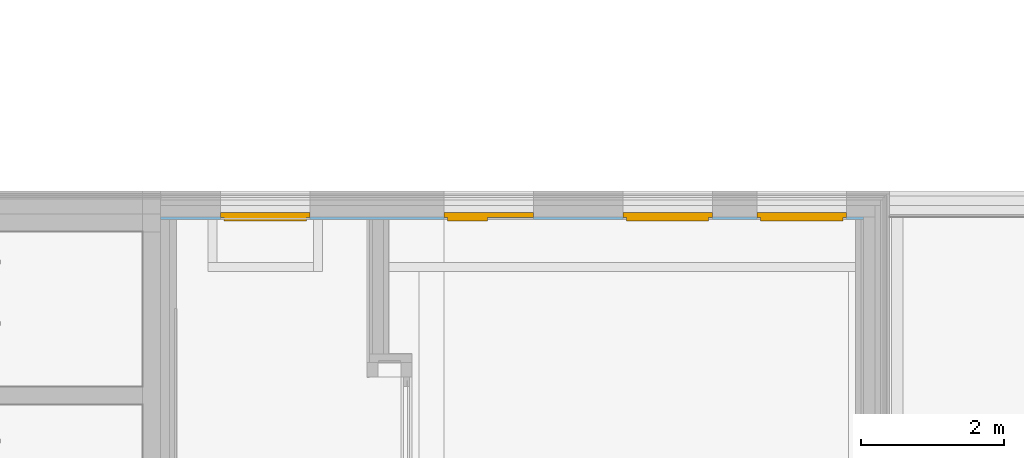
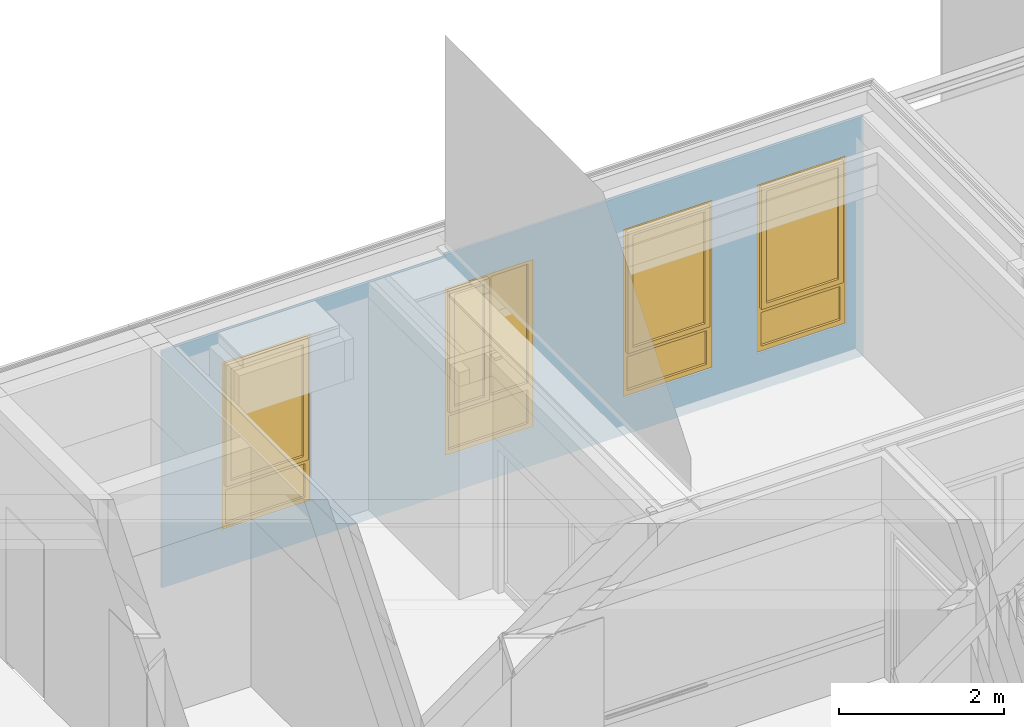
# One storey, part 110 of 222: 4 windows, 4 openings, plus 1 element that does not belong to this part.
"""IFC4 building model written with IfcOpenShell, lengths in metres."""

from ifc_helpers import new_model, entity, si_unit, converted_unit, derived_unit, frame, frame_2d, origin, origin_with_axes, place, context, subcontext, project, spatial, polyline, rectangle, outline, extrude, clip, bounded_halfspace, closed_shell, open_shell, surface_model, source, transform, mapped, material, type_object, element, fill, save


model = new_model("IFC4")

# Units and contexts
model_context = context("Model", 3, precision=1e-05, world=origin())
body_context = subcontext(model_context, "Body", "Model", "MODEL_VIEW")
ifc_project = project(units=[si_unit("LENGTHUNIT", "METRE"), si_unit("AREAUNIT", "SQUARE_METRE"), si_unit("VOLUMEUNIT", "CUBIC_METRE"), si_unit("MASSUNIT", "GRAM", prefix="KILO"), converted_unit("PLANEANGLEUNIT", "DEGREE", entity("IfcPlaneAngleMeasure", 0.0174532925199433), si_unit("PLANEANGLEUNIT", "RADIAN"), dimensions=[0, 0, 0, 0, 0, 0, 0]), derived_unit("THERMALTRANSMITTANCEUNIT", [(si_unit("POWERUNIT", "WATT"), 1), (si_unit("THERMODYNAMICTEMPERATUREUNIT", "KELVIN"), -1), (si_unit("LENGTHUNIT", "METRE"), -2)]), derived_unit("VOLUMETRICFLOWRATEUNIT", [(si_unit("LENGTHUNIT", "METRE"), 3), (converted_unit("TIMEUNIT", "hour", entity("IfcTimeMeasure", 3600.0), si_unit("TIMEUNIT", "SECOND"), dimensions=[0, 0, 1, 0, 0, 0, 0]), -1), (si_unit("LENGTHUNIT", "METRE"), -1)])], contexts=[model_context])

# Site, building, storey
site_placement = place(None, origin())
site = spatial("IfcSite", under=ifc_project, at=site_placement, Name="Psychiatrie Neubau Wunstorf", CompositionType="ELEMENT")
building_placement = place(site_placement, origin())
building = spatial("IfcBuilding", under=site, at=building_placement, Name="Neubau H2 Stationsgebäude", CompositionType="ELEMENT")
storey_placement = place(building_placement, frame((0.0, 0.0, 3.6)))
storey = spatial("IfcBuildingStorey", under=building, at=storey_placement, Name="H2 Ebene +1", CompositionType="ELEMENT", Elevation=3.6)

# Wall, openings, windows
ifc_material = material(Name="WA-LB")
wall_placement = place(storey_placement, frame((58.1, 29.0639996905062, 0.0)))
wall = element("IfcWall", 1, at=wall_placement, inside=storey, material=ifc_material, context=body_context, shape_type="Clipping", body=[
    clip(extrude(rectangle(XDim=9.82500000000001, YDim=0.036, at=frame_2d((4.9125, 0.018), x_axis=(1.0, 0.0))), origin_with_axes(), (0.0, 0.0, 1.0), 3.55), bounded_halfspace(frame((1.98125000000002, 0.018, 3.51), z_axis=(0.0, 0.0, -1.0), x_axis=(-1.0, 0.0, 0.0)), True, origin_with_axes(), polyline([(3.96250000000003, 0.036), (0.0, 0.036), (0.0, 0.0), (3.96250000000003, 0.0), (3.96250000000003, 0.036)]))),
])
opening_1_placement = place(wall_placement, frame((2.08750000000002, 0.036, 0.55), z_axis=(0.0, -1.0, 0.0), x_axis=(0.0, 0.0, 1.0)))
opening_1 = element("IfcOpeningElement", 2, at=opening_1_placement, cuts=wall, Name="Fensteröffnung", ObjectType="Opening", context=body_context, shape_type="SweptSolid", body=[
    extrude(outline(polyline([(2.5, 1.25), (2.5, 0.0), (0.0, 0.0), (0.0, 1.25), (2.5, 1.25)])), origin_with_axes(), (0.0, 0.0, 1.0), 0.036),
])
opening_2_placement = place(wall_placement, frame((7.71250000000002, 0.036, 0.55), z_axis=(0.0, -1.0, 0.0), x_axis=(0.0, 0.0, 1.0)))
opening_2 = element("IfcOpeningElement", 3, at=opening_2_placement, cuts=wall, Name="Fensteröffnung", ObjectType="Opening", context=body_context, shape_type="SweptSolid", body=[
    extrude(outline(polyline([(2.5, 1.25), (2.5, 0.0), (0.0, 0.0), (0.0, 1.25), (2.5, 1.25)])), origin_with_axes(), (0.0, 0.0, 1.0), 0.036),
])
opening_3_placement = place(wall_placement, frame((9.58750000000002, 0.036, 0.55), z_axis=(0.0, -1.0, 0.0), x_axis=(0.0, 0.0, 1.0)))
opening_3 = element("IfcOpeningElement", 4, at=opening_3_placement, cuts=wall, Name="Fensteröffnung", ObjectType="Opening", context=body_context, shape_type="SweptSolid", body=[
    extrude(outline(polyline([(2.5, 1.25), (2.5, 0.0), (0.0, 0.0), (0.0, 1.25), (2.5, 1.25)])), origin_with_axes(), (0.0, 0.0, 1.0), 0.036),
])
opening_4_placement = place(wall_placement, frame((5.21250000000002, 0.036, 0.55), z_axis=(0.0, -1.0, 0.0), x_axis=(0.0, 0.0, 1.0)))
opening_4 = element("IfcOpeningElement", 5, at=opening_4_placement, cuts=wall, Name="Fensteröffnung", ObjectType="Opening", context=body_context, shape_type="SweptSolid", body=[
    extrude(outline(polyline([(2.5, 1.25), (2.5, 0.0), (0.0, 0.0), (0.0, 1.25), (2.5, 1.25)])), origin_with_axes(), (0.0, 0.0, 1.0), 0.036),
])
window_type_1 = type_object("IfcWindowType", Name="Fenster", ParameterTakesPrecedence=False, PartitioningType="DOUBLE_PANEL_HORIZONTAL", PredefinedType="WINDOW")
shared_shape_1 = source(origin_with_axes(), body_context, "Body", "SurfaceModel", [
    surface_model("IfcShellBasedSurfaceModel", [(1.25, 0.0, 2.5), (1.25, 0.0, 0.0), (1.18, 0.0, 0.0), (1.18, 0.0, 2.5), (1.25, 0.0699999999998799, 0.0), (1.25, 0.0699999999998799, 2.5), (1.18, 0.0699999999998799, 2.5), (1.18, 0.0699999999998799, 0.0)], [closed_shell([[[0, 1, 2, 3]], [[4, 5, 6, 7]], [[1, 0, 5, 4]], [[2, 1, 4, 7]], [[3, 2, 7, 6]], [[0, 3, 6, 5]]], orient=[[False], [False], [False], [False], [False], [False]])]),
    surface_model("IfcShellBasedSurfaceModel", [(0.07, 0.0, 2.5), (0.07, 0.0, 0.0), (0.0, 0.0, 0.0), (0.0, 0.0, 2.5), (0.07, 0.0699999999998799, 0.0), (0.07, 0.0699999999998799, 2.5), (0.0, 0.0699999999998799, 2.5), (0.0, 0.0699999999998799, 0.0)], [closed_shell([[[0, 1, 2, 3]], [[4, 5, 6, 7]], [[1, 0, 5, 4]], [[2, 1, 4, 7]], [[3, 2, 7, 6]], [[0, 3, 6, 5]]], orient=[[False], [False], [False], [False], [False], [False]])]),
    surface_model("IfcShellBasedSurfaceModel", [(1.18, 0.0, 0.07), (1.18, 0.0, 0.0), (0.07, 0.0, 0.0), (0.07, 0.0, 0.07), (1.18, 0.0699999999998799, 0.0), (1.18, 0.0699999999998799, 0.07), (0.07, 0.0699999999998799, 0.07), (0.07, 0.0699999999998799, 0.0)], [closed_shell([[[0, 1, 2, 3]], [[4, 5, 6, 7]], [[1, 0, 5, 4]], [[2, 1, 4, 7]], [[3, 2, 7, 6]], [[0, 3, 6, 5]]], orient=[[False], [False], [False], [False], [False], [False]])]),
    surface_model("IfcShellBasedSurfaceModel", [(1.18, 0.0, 2.5), (1.18, 0.0, 2.43), (0.07, 0.0, 2.43), (0.07, 0.0, 2.5), (1.18, 0.0699999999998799, 2.43), (1.18, 0.0699999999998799, 2.5), (0.07, 0.0699999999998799, 2.5), (0.07, 0.0699999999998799, 2.43)], [closed_shell([[[0, 1, 2, 3]], [[4, 5, 6, 7]], [[1, 0, 5, 4]], [[2, 1, 4, 7]], [[3, 2, 7, 6]], [[0, 3, 6, 5]]], orient=[[False], [False], [False], [False], [False], [False]])]),
    surface_model("IfcShellBasedSurfaceModel", [(1.18, 0.0, 0.67), (1.18, 0.0, 0.57), (0.07, 0.0, 0.57), (0.07, 0.0, 0.67), (1.18, 0.0699999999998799, 0.57), (1.18, 0.0699999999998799, 0.67), (0.07, 0.0699999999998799, 0.67), (0.07, 0.0699999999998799, 0.57)], [closed_shell([[[0, 1, 2, 3]], [[4, 5, 6, 7]], [[1, 0, 5, 4]], [[2, 1, 4, 7]], [[3, 2, 7, 6]], [[0, 3, 6, 5]]], orient=[[False], [False], [False], [False], [False], [False]])]),
    surface_model("IfcShellBasedSurfaceModel", [(1.18, 0.0349999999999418, 0.07), (0.07, 0.0349999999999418, 0.07), (0.07, 0.0349999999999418, 0.57), (1.18, 0.0349999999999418, 0.57)], [open_shell([[[0, 1, 2, 3]]], orient=[[False]])]),
    surface_model("IfcShellBasedSurfaceModel", [(1.2, 0.0499999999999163, 2.45), (1.2, 0.0499999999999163, 0.65), (1.13, 0.0499999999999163, 0.65), (1.13, 0.0499999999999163, 2.45), (1.2, 0.119999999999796, 0.65), (1.2, 0.119999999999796, 2.45), (1.13, 0.119999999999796, 2.45), (1.13, 0.119999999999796, 0.65)], [closed_shell([[[0, 1, 2, 3]], [[4, 5, 6, 7]], [[1, 0, 5, 4]], [[2, 1, 4, 7]], [[3, 2, 7, 6]], [[0, 3, 6, 5]]], orient=[[False], [False], [False], [False], [False], [False]])]),
    surface_model("IfcShellBasedSurfaceModel", [(0.12, 0.0499999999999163, 2.45), (0.12, 0.0499999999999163, 0.65), (0.05, 0.0499999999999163, 0.65), (0.05, 0.0499999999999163, 2.45), (0.12, 0.119999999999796, 0.65), (0.12, 0.119999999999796, 2.45), (0.05, 0.119999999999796, 2.45), (0.05, 0.119999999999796, 0.65)], [closed_shell([[[0, 1, 2, 3]], [[4, 5, 6, 7]], [[1, 0, 5, 4]], [[2, 1, 4, 7]], [[3, 2, 7, 6]], [[0, 3, 6, 5]]], orient=[[False], [False], [False], [False], [False], [False]])]),
    surface_model("IfcShellBasedSurfaceModel", [(1.13, 0.0499999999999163, 0.72), (1.13, 0.0499999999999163, 0.65), (0.12, 0.0499999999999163, 0.65), (0.12, 0.0499999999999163, 0.72), (1.13, 0.119999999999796, 0.65), (1.13, 0.119999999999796, 0.72), (0.12, 0.119999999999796, 0.72), (0.12, 0.119999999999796, 0.65)], [closed_shell([[[0, 1, 2, 3]], [[4, 5, 6, 7]], [[1, 0, 5, 4]], [[2, 1, 4, 7]], [[3, 2, 7, 6]], [[0, 3, 6, 5]]], orient=[[False], [False], [False], [False], [False], [False]])]),
    surface_model("IfcShellBasedSurfaceModel", [(1.13, 0.0499999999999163, 2.45), (1.13, 0.0499999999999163, 2.38), (0.12, 0.0499999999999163, 2.38), (0.12, 0.0499999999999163, 2.45), (1.13, 0.119999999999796, 2.38), (1.13, 0.119999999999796, 2.45), (0.12, 0.119999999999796, 2.45), (0.12, 0.119999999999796, 2.38)], [closed_shell([[[0, 1, 2, 3]], [[4, 5, 6, 7]], [[1, 0, 5, 4]], [[2, 1, 4, 7]], [[3, 2, 7, 6]], [[0, 3, 6, 5]]], orient=[[False], [False], [False], [False], [False], [False]])]),
    surface_model("IfcShellBasedSurfaceModel", [(1.13, 0.0849999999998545, 0.72), (0.12, 0.0849999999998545, 0.72), (0.12, 0.0849999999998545, 2.38), (1.13, 0.0849999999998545, 2.38)], [open_shell([[[0, 1, 2, 3]]], orient=[[False]])]),
])
window_1_placement = place(opening_1_placement, frame((0.0, 0.0, -0.064), z_axis=(1.0, 0.0, 0.0), x_axis=(0.0, 1.0, 0.0)))
window_1 = element("IfcWindow", 6, at=window_1_placement, inside=storey, type_object=window_type_1, Name="Fenster", OverallHeight=2.5, OverallWidth=1.25, context=body_context, shape_type="MappedRepresentation", body=[
    mapped(shared_shape_1, transform((0.0, 0.0, 0.0), x_axis=(1.0, 0.0, 0.0), y_axis=(0.0, 1.0, 0.0), z_axis=(0.0, 0.0, 1.0), scale=1.0)),
])
fill(opening_1, window_1)
window_type_2 = type_object("IfcWindowType", Name="Fenster", ParameterTakesPrecedence=False, PartitioningType="DOUBLE_PANEL_HORIZONTAL", PredefinedType="WINDOW")
shared_shape_2 = source(origin_with_axes(), body_context, "Body", "SurfaceModel", [
    surface_model("IfcShellBasedSurfaceModel", [(0.0, 0.0, 2.5), (0.07, 0.0, 2.5), (0.07, 0.0, 0.0), (0.0, 0.0, 0.0), (0.0, 0.0699999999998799, 0.0), (0.07, 0.0699999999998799, 0.0), (0.07, 0.0699999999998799, 2.5), (0.0, 0.0699999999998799, 2.5)], [closed_shell([[[0, 1, 2, 3]], [[4, 5, 6, 7]], [[3, 4, 7, 0]], [[2, 5, 4, 3]], [[1, 6, 5, 2]], [[0, 7, 6, 1]]], orient=[[False], [False], [False], [False], [False], [False]])]),
    surface_model("IfcShellBasedSurfaceModel", [(1.18, 0.0, 2.5), (1.25, 0.0, 2.5), (1.25, 0.0, 0.0), (1.18, 0.0, 0.0), (1.18, 0.0699999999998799, 0.0), (1.25, 0.0699999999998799, 0.0), (1.25, 0.0699999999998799, 2.5), (1.18, 0.0699999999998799, 2.5)], [closed_shell([[[0, 1, 2, 3]], [[4, 5, 6, 7]], [[3, 4, 7, 0]], [[2, 5, 4, 3]], [[1, 6, 5, 2]], [[0, 7, 6, 1]]], orient=[[False], [False], [False], [False], [False], [False]])]),
    surface_model("IfcShellBasedSurfaceModel", [(0.07, 0.0, 0.07), (1.18, 0.0, 0.07), (1.18, 0.0, 0.0), (0.07, 0.0, 0.0), (0.07, 0.0699999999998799, 0.0), (1.18, 0.0699999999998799, 0.0), (1.18, 0.0699999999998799, 0.07), (0.07, 0.0699999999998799, 0.07)], [closed_shell([[[0, 1, 2, 3]], [[4, 5, 6, 7]], [[3, 4, 7, 0]], [[2, 5, 4, 3]], [[1, 6, 5, 2]], [[0, 7, 6, 1]]], orient=[[False], [False], [False], [False], [False], [False]])]),
    surface_model("IfcShellBasedSurfaceModel", [(0.07, 0.0, 2.5), (1.18, 0.0, 2.5), (1.18, 0.0, 2.43), (0.07, 0.0, 2.43), (0.07, 0.0699999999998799, 2.43), (1.18, 0.0699999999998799, 2.43), (1.18, 0.0699999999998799, 2.5), (0.07, 0.0699999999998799, 2.5)], [closed_shell([[[0, 1, 2, 3]], [[4, 5, 6, 7]], [[3, 4, 7, 0]], [[2, 5, 4, 3]], [[1, 6, 5, 2]], [[0, 7, 6, 1]]], orient=[[False], [False], [False], [False], [False], [False]])]),
    surface_model("IfcShellBasedSurfaceModel", [(0.07, 0.0, 0.67), (1.18, 0.0, 0.67), (1.18, 0.0, 0.57), (0.07, 0.0, 0.57), (0.07, 0.0699999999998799, 0.57), (1.18, 0.0699999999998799, 0.57), (1.18, 0.0699999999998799, 0.67), (0.07, 0.0699999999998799, 0.67)], [closed_shell([[[0, 1, 2, 3]], [[4, 5, 6, 7]], [[3, 4, 7, 0]], [[2, 5, 4, 3]], [[1, 6, 5, 2]], [[0, 7, 6, 1]]], orient=[[False], [False], [False], [False], [False], [False]])]),
    surface_model("IfcShellBasedSurfaceModel", [(0.07, 0.0349999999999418, 0.07), (0.07, 0.0349999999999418, 0.57), (1.18, 0.0349999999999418, 0.57), (1.18, 0.0349999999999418, 0.07)], [open_shell([[[0, 1, 2, 3]]], orient=[[False]])]),
    surface_model("IfcShellBasedSurfaceModel", [(0.05, 0.0499999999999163, 2.45), (0.12, 0.0499999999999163, 2.45), (0.12, 0.0499999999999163, 0.65), (0.05, 0.0499999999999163, 0.65), (0.05, 0.119999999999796, 0.65), (0.12, 0.119999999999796, 0.65), (0.12, 0.119999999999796, 2.45), (0.05, 0.119999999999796, 2.45)], [closed_shell([[[0, 1, 2, 3]], [[4, 5, 6, 7]], [[3, 4, 7, 0]], [[2, 5, 4, 3]], [[1, 6, 5, 2]], [[0, 7, 6, 1]]], orient=[[False], [False], [False], [False], [False], [False]])]),
    surface_model("IfcShellBasedSurfaceModel", [(1.13, 0.0499999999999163, 2.45), (1.2, 0.0499999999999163, 2.45), (1.2, 0.0499999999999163, 0.65), (1.13, 0.0499999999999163, 0.65), (1.13, 0.119999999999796, 0.65), (1.2, 0.119999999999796, 0.65), (1.2, 0.119999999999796, 2.45), (1.13, 0.119999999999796, 2.45)], [closed_shell([[[0, 1, 2, 3]], [[4, 5, 6, 7]], [[3, 4, 7, 0]], [[2, 5, 4, 3]], [[1, 6, 5, 2]], [[0, 7, 6, 1]]], orient=[[False], [False], [False], [False], [False], [False]])]),
    surface_model("IfcShellBasedSurfaceModel", [(0.12, 0.0499999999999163, 0.72), (1.13, 0.0499999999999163, 0.72), (1.13, 0.0499999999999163, 0.65), (0.12, 0.0499999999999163, 0.65), (0.12, 0.119999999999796, 0.65), (1.13, 0.119999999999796, 0.65), (1.13, 0.119999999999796, 0.72), (0.12, 0.119999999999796, 0.72)], [closed_shell([[[0, 1, 2, 3]], [[4, 5, 6, 7]], [[3, 4, 7, 0]], [[2, 5, 4, 3]], [[1, 6, 5, 2]], [[0, 7, 6, 1]]], orient=[[False], [False], [False], [False], [False], [False]])]),
    surface_model("IfcShellBasedSurfaceModel", [(0.12, 0.0499999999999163, 2.45), (1.13, 0.0499999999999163, 2.45), (1.13, 0.0499999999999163, 2.38), (0.12, 0.0499999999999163, 2.38), (0.12, 0.119999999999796, 2.38), (1.13, 0.119999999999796, 2.38), (1.13, 0.119999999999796, 2.45), (0.12, 0.119999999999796, 2.45)], [closed_shell([[[0, 1, 2, 3]], [[4, 5, 6, 7]], [[3, 4, 7, 0]], [[2, 5, 4, 3]], [[1, 6, 5, 2]], [[0, 7, 6, 1]]], orient=[[False], [False], [False], [False], [False], [False]])]),
    surface_model("IfcShellBasedSurfaceModel", [(0.12, 0.0849999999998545, 0.72), (0.12, 0.0849999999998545, 2.38), (1.13, 0.0849999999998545, 2.38), (1.13, 0.0849999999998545, 0.72)], [open_shell([[[0, 1, 2, 3]]], orient=[[False]])]),
])
window_2_placement = place(opening_2_placement, frame((0.0, 0.0, -0.064), z_axis=(1.0, 0.0, 0.0), x_axis=(0.0, 1.0, 0.0)))
window_2 = element("IfcWindow", 7, at=window_2_placement, inside=storey, type_object=window_type_2, Name="Fenster", OverallHeight=2.5, OverallWidth=1.25, context=body_context, shape_type="MappedRepresentation", body=[
    mapped(shared_shape_2, transform((0.0, 0.0, 0.0), x_axis=(1.0, 0.0, 0.0), y_axis=(0.0, 1.0, 0.0), z_axis=(0.0, 0.0, 1.0), scale=1.0)),
])
fill(opening_2, window_2)
window_type_3 = type_object("IfcWindowType", Name="Fenster", ParameterTakesPrecedence=False, PartitioningType="DOUBLE_PANEL_HORIZONTAL", PredefinedType="WINDOW")
shared_shape_3 = source(origin_with_axes(), body_context, "Body", "SurfaceModel", [
    surface_model("IfcShellBasedSurfaceModel", [(1.25, 0.0, 2.5), (1.25, 0.0, 0.0), (1.18, 0.0, 0.0), (1.18, 0.0, 2.5), (1.25, 0.0699999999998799, 0.0), (1.25, 0.0699999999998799, 2.5), (1.18, 0.0699999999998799, 2.5), (1.18, 0.0699999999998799, 0.0)], [closed_shell([[[0, 1, 2, 3]], [[4, 5, 6, 7]], [[1, 0, 5, 4]], [[2, 1, 4, 7]], [[3, 2, 7, 6]], [[0, 3, 6, 5]]], orient=[[False], [False], [False], [False], [False], [False]])]),
    surface_model("IfcShellBasedSurfaceModel", [(0.07, 0.0, 2.5), (0.07, 0.0, 0.0), (0.0, 0.0, 0.0), (0.0, 0.0, 2.5), (0.07, 0.0699999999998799, 0.0), (0.07, 0.0699999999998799, 2.5), (0.0, 0.0699999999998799, 2.5), (0.0, 0.0699999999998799, 0.0)], [closed_shell([[[0, 1, 2, 3]], [[4, 5, 6, 7]], [[1, 0, 5, 4]], [[2, 1, 4, 7]], [[3, 2, 7, 6]], [[0, 3, 6, 5]]], orient=[[False], [False], [False], [False], [False], [False]])]),
    surface_model("IfcShellBasedSurfaceModel", [(1.18, 0.0, 0.07), (1.18, 0.0, 0.0), (0.07, 0.0, 0.0), (0.07, 0.0, 0.07), (1.18, 0.0699999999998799, 0.0), (1.18, 0.0699999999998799, 0.07), (0.07, 0.0699999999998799, 0.07), (0.07, 0.0699999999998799, 0.0)], [closed_shell([[[0, 1, 2, 3]], [[4, 5, 6, 7]], [[1, 0, 5, 4]], [[2, 1, 4, 7]], [[3, 2, 7, 6]], [[0, 3, 6, 5]]], orient=[[False], [False], [False], [False], [False], [False]])]),
    surface_model("IfcShellBasedSurfaceModel", [(1.18, 0.0, 2.5), (1.18, 0.0, 2.43), (0.07, 0.0, 2.43), (0.07, 0.0, 2.5), (1.18, 0.0699999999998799, 2.43), (1.18, 0.0699999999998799, 2.5), (0.07, 0.0699999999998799, 2.5), (0.07, 0.0699999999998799, 2.43)], [closed_shell([[[0, 1, 2, 3]], [[4, 5, 6, 7]], [[1, 0, 5, 4]], [[2, 1, 4, 7]], [[3, 2, 7, 6]], [[0, 3, 6, 5]]], orient=[[False], [False], [False], [False], [False], [False]])]),
    surface_model("IfcShellBasedSurfaceModel", [(1.18, 0.0, 0.67), (1.18, 0.0, 0.57), (0.07, 0.0, 0.57), (0.07, 0.0, 0.67), (1.18, 0.0699999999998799, 0.57), (1.18, 0.0699999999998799, 0.67), (0.07, 0.0699999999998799, 0.67), (0.07, 0.0699999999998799, 0.57)], [closed_shell([[[0, 1, 2, 3]], [[4, 5, 6, 7]], [[1, 0, 5, 4]], [[2, 1, 4, 7]], [[3, 2, 7, 6]], [[0, 3, 6, 5]]], orient=[[False], [False], [False], [False], [False], [False]])]),
    surface_model("IfcShellBasedSurfaceModel", [(1.18, 0.0349999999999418, 0.07), (0.07, 0.0349999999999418, 0.07), (0.07, 0.0349999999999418, 0.57), (1.18, 0.0349999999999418, 0.57)], [open_shell([[[0, 1, 2, 3]]], orient=[[False]])]),
    surface_model("IfcShellBasedSurfaceModel", [(1.2, 0.0499999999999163, 2.45), (1.2, 0.0499999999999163, 0.65), (1.13, 0.0499999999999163, 0.65), (1.13, 0.0499999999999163, 2.45), (1.2, 0.119999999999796, 0.65), (1.2, 0.119999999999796, 2.45), (1.13, 0.119999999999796, 2.45), (1.13, 0.119999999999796, 0.65)], [closed_shell([[[0, 1, 2, 3]], [[4, 5, 6, 7]], [[1, 0, 5, 4]], [[2, 1, 4, 7]], [[3, 2, 7, 6]], [[0, 3, 6, 5]]], orient=[[False], [False], [False], [False], [False], [False]])]),
    surface_model("IfcShellBasedSurfaceModel", [(0.12, 0.0499999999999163, 2.45), (0.12, 0.0499999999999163, 0.65), (0.05, 0.0499999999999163, 0.65), (0.05, 0.0499999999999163, 2.45), (0.12, 0.119999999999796, 0.65), (0.12, 0.119999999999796, 2.45), (0.05, 0.119999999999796, 2.45), (0.05, 0.119999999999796, 0.65)], [closed_shell([[[0, 1, 2, 3]], [[4, 5, 6, 7]], [[1, 0, 5, 4]], [[2, 1, 4, 7]], [[3, 2, 7, 6]], [[0, 3, 6, 5]]], orient=[[False], [False], [False], [False], [False], [False]])]),
    surface_model("IfcShellBasedSurfaceModel", [(1.13, 0.0499999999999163, 0.72), (1.13, 0.0499999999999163, 0.65), (0.12, 0.0499999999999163, 0.65), (0.12, 0.0499999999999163, 0.72), (1.13, 0.119999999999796, 0.65), (1.13, 0.119999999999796, 0.72), (0.12, 0.119999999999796, 0.72), (0.12, 0.119999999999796, 0.65)], [closed_shell([[[0, 1, 2, 3]], [[4, 5, 6, 7]], [[1, 0, 5, 4]], [[2, 1, 4, 7]], [[3, 2, 7, 6]], [[0, 3, 6, 5]]], orient=[[False], [False], [False], [False], [False], [False]])]),
    surface_model("IfcShellBasedSurfaceModel", [(1.13, 0.0499999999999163, 2.45), (1.13, 0.0499999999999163, 2.38), (0.12, 0.0499999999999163, 2.38), (0.12, 0.0499999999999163, 2.45), (1.13, 0.119999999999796, 2.38), (1.13, 0.119999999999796, 2.45), (0.12, 0.119999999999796, 2.45), (0.12, 0.119999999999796, 2.38)], [closed_shell([[[0, 1, 2, 3]], [[4, 5, 6, 7]], [[1, 0, 5, 4]], [[2, 1, 4, 7]], [[3, 2, 7, 6]], [[0, 3, 6, 5]]], orient=[[False], [False], [False], [False], [False], [False]])]),
    surface_model("IfcShellBasedSurfaceModel", [(1.13, 0.0849999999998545, 0.72), (0.12, 0.0849999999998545, 0.72), (0.12, 0.0849999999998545, 2.38), (1.13, 0.0849999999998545, 2.38)], [open_shell([[[0, 1, 2, 3]]], orient=[[False]])]),
])
window_3_placement = place(opening_3_placement, frame((0.0, 0.0, -0.064), z_axis=(1.0, 0.0, 0.0), x_axis=(0.0, 1.0, 0.0)))
window_3 = element("IfcWindow", 8, at=window_3_placement, inside=storey, type_object=window_type_3, Name="Fenster", OverallHeight=2.5, OverallWidth=1.25, context=body_context, shape_type="MappedRepresentation", body=[
    mapped(shared_shape_3, transform((0.0, 0.0, 0.0), x_axis=(1.0, 0.0, 0.0), y_axis=(0.0, 1.0, 0.0), z_axis=(0.0, 0.0, 1.0), scale=1.0)),
])
fill(opening_3, window_3)
shared_shape_4 = source(origin_with_axes(), body_context, "Body", "SurfaceModel", [
    surface_model("IfcShellBasedSurfaceModel", [(0.0, 0.0, 2.5), (0.07, 0.0, 2.5), (0.07, 0.0, 0.0), (0.0, 0.0, 0.0), (0.0, 0.07, 0.0), (0.07, 0.07, 0.0), (0.07, 0.07, 2.5), (0.0, 0.07, 2.5)], [closed_shell([[[0, 1, 2, 3]], [[4, 5, 6, 7]], [[3, 4, 7, 0]], [[2, 5, 4, 3]], [[1, 6, 5, 2]], [[0, 7, 6, 1]]], orient=[[False], [False], [False], [False], [False], [False]])]),
    surface_model("IfcShellBasedSurfaceModel", [(1.18, 0.0, 2.5), (1.25, 0.0, 2.5), (1.25, 0.0, 0.0), (1.18, 0.0, 0.0), (1.18, 0.07, 0.0), (1.25, 0.07, 0.0), (1.25, 0.07, 2.5), (1.18, 0.07, 2.5)], [closed_shell([[[0, 1, 2, 3]], [[4, 5, 6, 7]], [[3, 4, 7, 0]], [[2, 5, 4, 3]], [[1, 6, 5, 2]], [[0, 7, 6, 1]]], orient=[[False], [False], [False], [False], [False], [False]])]),
    surface_model("IfcShellBasedSurfaceModel", [(0.07, 0.0, 0.07), (1.18, 0.0, 0.07), (1.18, 0.0, 0.0), (0.07, 0.0, 0.0), (0.07, 0.07, 0.0), (1.18, 0.07, 0.0), (1.18, 0.07, 0.07), (0.07, 0.07, 0.07)], [closed_shell([[[0, 1, 2, 3]], [[4, 5, 6, 7]], [[3, 4, 7, 0]], [[2, 5, 4, 3]], [[1, 6, 5, 2]], [[0, 7, 6, 1]]], orient=[[False], [False], [False], [False], [False], [False]])]),
    surface_model("IfcShellBasedSurfaceModel", [(0.07, 0.0, 2.5), (1.18, 0.0, 2.5), (1.18, 0.0, 2.43), (0.07, 0.0, 2.43), (0.07, 0.07, 2.43), (1.18, 0.07, 2.43), (1.18, 0.07, 2.5), (0.07, 0.07, 2.5)], [closed_shell([[[0, 1, 2, 3]], [[4, 5, 6, 7]], [[3, 4, 7, 0]], [[2, 5, 4, 3]], [[1, 6, 5, 2]], [[0, 7, 6, 1]]], orient=[[False], [False], [False], [False], [False], [False]])]),
    surface_model("IfcShellBasedSurfaceModel", [(0.07, 0.0, 0.67), (1.18, 0.0, 0.67), (1.18, 0.0, 0.57), (0.07, 0.0, 0.57), (0.07, 0.07, 0.57), (1.18, 0.07, 0.57), (1.18, 0.07, 0.67), (0.07, 0.07, 0.67)], [closed_shell([[[0, 1, 2, 3]], [[4, 5, 6, 7]], [[3, 4, 7, 0]], [[2, 5, 4, 3]], [[1, 6, 5, 2]], [[0, 7, 6, 1]]], orient=[[False], [False], [False], [False], [False], [False]])]),
    surface_model("IfcShellBasedSurfaceModel", [(0.07, 0.0350000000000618, 0.07), (0.07, 0.0350000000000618, 0.57), (1.18, 0.0350000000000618, 0.57), (1.18, 0.0350000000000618, 0.07)], [open_shell([[[0, 1, 2, 3]]], orient=[[False]])]),
    surface_model("IfcShellBasedSurfaceModel", [(0.59, 0.0, 2.43), (0.66, 0.0, 2.43), (0.66, 0.0, 0.67), (0.59, 0.0, 0.67), (0.59, 0.07, 0.67), (0.66, 0.07, 0.67), (0.66, 0.07, 2.43), (0.59, 0.07, 2.43)], [closed_shell([[[0, 1, 2, 3]], [[4, 5, 6, 7]], [[3, 4, 7, 0]], [[2, 5, 4, 3]], [[1, 6, 5, 2]], [[0, 7, 6, 1]]], orient=[[False], [False], [False], [False], [False], [False]])]),
    surface_model("IfcShellBasedSurfaceModel", [(0.05, -0.0499999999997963, 2.45), (0.12, -0.0499999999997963, 2.45), (0.12, -0.0499999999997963, 0.65), (0.05, -0.0499999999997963, 0.65), (0.05, 0.0200000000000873, 0.65), (0.12, 0.0200000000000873, 0.65), (0.12, 0.0200000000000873, 2.45), (0.05, 0.0200000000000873, 2.45)], [closed_shell([[[0, 1, 2, 3]], [[4, 5, 6, 7]], [[3, 4, 7, 0]], [[2, 5, 4, 3]], [[1, 6, 5, 2]], [[0, 7, 6, 1]]], orient=[[False], [False], [False], [False], [False], [False]])]),
    surface_model("IfcShellBasedSurfaceModel", [(0.54, -0.0499999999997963, 2.45), (0.61, -0.0499999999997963, 2.45), (0.61, -0.0499999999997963, 0.65), (0.54, -0.0499999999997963, 0.65), (0.54, 0.0200000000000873, 0.65), (0.61, 0.0200000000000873, 0.65), (0.61, 0.0200000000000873, 2.45), (0.54, 0.0200000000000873, 2.45)], [closed_shell([[[0, 1, 2, 3]], [[4, 5, 6, 7]], [[3, 4, 7, 0]], [[2, 5, 4, 3]], [[1, 6, 5, 2]], [[0, 7, 6, 1]]], orient=[[False], [False], [False], [False], [False], [False]])]),
    surface_model("IfcShellBasedSurfaceModel", [(0.12, -0.0499999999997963, 0.72), (0.54, -0.0499999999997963, 0.72), (0.54, -0.0499999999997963, 0.65), (0.12, -0.0499999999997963, 0.65), (0.12, 0.0200000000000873, 0.65), (0.54, 0.0200000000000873, 0.65), (0.54, 0.0200000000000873, 0.72), (0.12, 0.0200000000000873, 0.72)], [closed_shell([[[0, 1, 2, 3]], [[4, 5, 6, 7]], [[3, 4, 7, 0]], [[2, 5, 4, 3]], [[1, 6, 5, 2]], [[0, 7, 6, 1]]], orient=[[False], [False], [False], [False], [False], [False]])]),
    surface_model("IfcShellBasedSurfaceModel", [(0.12, -0.0499999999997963, 2.45), (0.54, -0.0499999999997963, 2.45), (0.54, -0.0499999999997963, 2.38), (0.12, -0.0499999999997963, 2.38), (0.12, 0.0200000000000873, 2.38), (0.54, 0.0200000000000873, 2.38), (0.54, 0.0200000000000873, 2.45), (0.12, 0.0200000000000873, 2.45)], [closed_shell([[[0, 1, 2, 3]], [[4, 5, 6, 7]], [[3, 4, 7, 0]], [[2, 5, 4, 3]], [[1, 6, 5, 2]], [[0, 7, 6, 1]]], orient=[[False], [False], [False], [False], [False], [False]])]),
    surface_model("IfcShellBasedSurfaceModel", [(0.66, 0.0350000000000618, 0.67), (0.66, 0.0350000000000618, 2.43), (1.18, 0.0350000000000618, 2.43), (1.18, 0.0350000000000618, 0.67)], [open_shell([[[0, 1, 2, 3]]], orient=[[False]])]),
    surface_model("IfcShellBasedSurfaceModel", [(0.12, -0.0149999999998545, 0.72), (0.12, -0.0149999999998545, 2.38), (0.54, -0.0149999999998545, 2.38), (0.54, -0.0149999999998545, 0.72)], [open_shell([[[0, 1, 2, 3]]], orient=[[False]])]),
])
window_4_placement = place(opening_4_placement, frame((0.0, 1.25, 0.006), z_axis=(1.0, 0.0, 0.0), x_axis=(0.0, -1.0, 0.0)))
window_4 = element("IfcWindow", 9, at=window_4_placement, inside=storey, Name="Fenster", OverallHeight=2.5, OverallWidth=1.25, PartitioningType="USERDEFINED", PredefinedType="WINDOW", context=body_context, shape_type="MappedRepresentation", body=[
    mapped(shared_shape_4, transform((0.0, 0.0, 0.0), x_axis=(1.0, 0.0, 0.0), y_axis=(0.0, 1.0, 0.0), z_axis=(0.0, 0.0, 1.0), scale=1.0)),
])
fill(opening_4, window_4)

save(model, "model.ifc")
